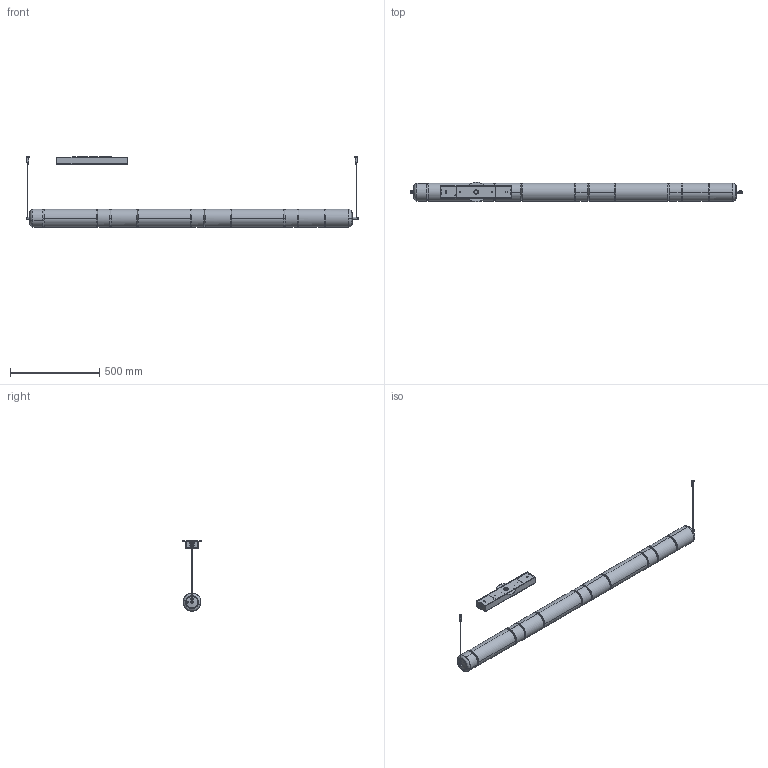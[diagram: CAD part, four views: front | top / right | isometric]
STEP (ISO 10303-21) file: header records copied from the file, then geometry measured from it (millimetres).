
FILE_DESCRIPTION(/* description */ (''),/* implementation_level */ '2;1');
FILE_NAME(/* name */ '00343MP9LD00ULPB - STACKING S 180 H GLASS USA',/* time_stamp */ '2024-02-01T10:34:26+01:00',/* author */ (''),/* organization */ (''),/* preprocessor_version */ 'ST-DEVELOPER v16.5',/* originating_system */ 'Rhino 7.27',/* authorisation */ '');
FILE_SCHEMA (('CONFIG_CONTROL_DESIGN'));
Length unit declared in the file: millimetre
Products named in the file (1): Document
Bounding box: 1860 x 110 x 393.5 mm (x, y, z)
Volume: 2863936.3 mm3; surface area: 2492766.5 mm2
Topology: 36 solids, 36 shells, 1204 faces, 2887 edges, 1868 vertices
Faces by surface type: plane 488, cylinder 393, bspline 323
Entity records: 42870 total; most frequent: CARTESIAN_POINT 23960, ORIENTED_EDGE 5742, EDGE_CURVE 2871, VERTEX_POINT 1868, EDGE_LOOP 1437, B_SPLINE_CURVE_WITH_KNOTS 1211, ADVANCED_FACE 1204, FACE_OUTER_BOUND 1204
